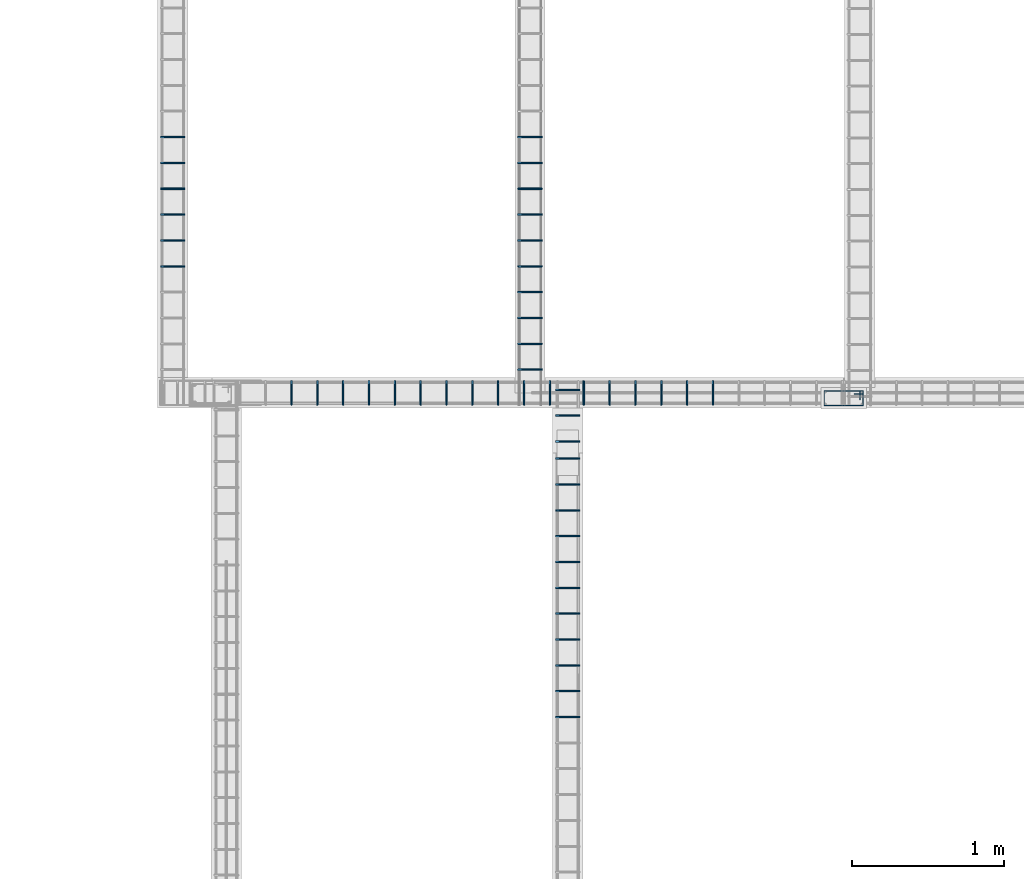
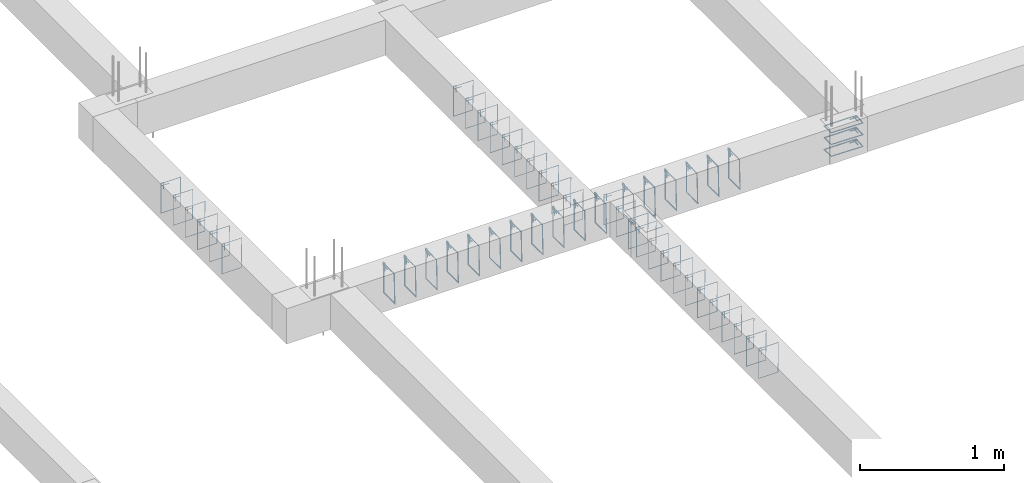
# One storey, part 26 of 150: 50 reinforcing bars.
"""IFC4 building model written with IfcOpenShell, lengths in centimetres."""

from ifc_helpers import new_model, entity, si_unit, derived_unit, frame, origin_with_axes, place, context, project, spatial, source, transform, mapped, element, save


model = new_model("IFC4")

# Units and contexts
model_context = context("Model", 3, precision=1e-05, world=origin_with_axes(), identifier="Body")
ifc_project = project(units=[si_unit("LENGTHUNIT", "METRE", prefix="CENTI"), si_unit("VOLUMEUNIT", "CUBIC_METRE"), si_unit("AREAUNIT", "SQUARE_METRE"), si_unit("POWERUNIT", "WATT"), si_unit("LUMINOUSFLUXUNIT", "LUMEN"), si_unit("ELECTRICCURRENTUNIT", "AMPERE"), si_unit("PRESSUREUNIT", "PASCAL", prefix="KILO"), si_unit("MASSUNIT", "GRAM", prefix="KILO"), si_unit("PLANEANGLEUNIT", "RADIAN"), derived_unit("VOLUMETRICFLOWRATEUNIT", [(si_unit("LENGTHUNIT", "METRE"), 3), (si_unit("TIMEUNIT", "SECOND"), -1)])], contexts=[model_context])

# Site, building, storey
site_placement = place(None, frame((-4000.0, 0.0, 0.0), z_axis=(0.0, 0.0, 1.0), x_axis=(1.0, 0.0, 0.0)))
site = spatial("IfcSite", under=ifc_project, at=site_placement, Name="PADRÃO")
building_placement = place(site_placement, frame((0.0, 0.0, -14.0)))
building = spatial("IfcBuilding", under=site, at=building_placement, Name="CRECHE PRÉ-ESCOLA TIPO 2")
placement = place(building_placement, origin_with_axes())
storey_placement = place(placement, frame((0.0, 0.0, 30.0), z_axis=(0.0, 0.0, 1.0), x_axis=(1.0, 0.0, 0.0)))
storey = spatial("IfcBuildingStorey", under=building, at=storey_placement, Name="VIGA BALDRAME", CompositionType="ELEMENT", Elevation=16.0)

# Reinforcing bars
shared_shape_1 = source(origin_with_axes(), model_context, "Body", "AdvancedSweptSolid", [
    entity("IfcSweptDiskSolid", entity("IfcCompositeCurve", [entity("IfcCompositeCurveSegment", "CONTINUOUS", True, entity("IfcPolyline", [entity("IfcCartesianPoint", [4.25, 21.75, 0.0]), entity("IfcCartesianPoint", [4.25, 27.75, 0.0])])), entity("IfcCompositeCurveSegment", "CONTINUOUS", True, entity("IfcPolyline", [entity("IfcCartesianPoint", [4.25, 27.75, 0.0]), entity("IfcCartesianPoint", [2.25, 27.75, 0.0])])), entity("IfcCompositeCurveSegment", "CONTINUOUS", True, entity("IfcPolyline", [entity("IfcCartesianPoint", [2.25, 27.75, 0.0]), entity("IfcCartesianPoint", [2.25, 2.25, 0.0])])), entity("IfcCompositeCurveSegment", "CONTINUOUS", True, entity("IfcPolyline", [entity("IfcCartesianPoint", [2.25, 2.25, 0.0]), entity("IfcCartesianPoint", [11.75, 2.25, 0.0])])), entity("IfcCompositeCurveSegment", "CONTINUOUS", True, entity("IfcPolyline", [entity("IfcCartesianPoint", [11.75, 2.25, 0.0]), entity("IfcCartesianPoint", [11.75, 27.75, -0.5])])), entity("IfcCompositeCurveSegment", "CONTINUOUS", True, entity("IfcPolyline", [entity("IfcCartesianPoint", [11.75, 27.75, -0.5]), entity("IfcCartesianPoint", [2.25, 27.75, -0.5])])), entity("IfcCompositeCurveSegment", "CONTINUOUS", True, entity("IfcPolyline", [entity("IfcCartesianPoint", [2.25, 27.75, -0.5]), entity("IfcCartesianPoint", [2.25, 25.75, -0.5])])), entity("IfcCompositeCurveSegment", "CONTINUOUS", True, entity("IfcPolyline", [entity("IfcCartesianPoint", [2.25, 25.75, -0.5]), entity("IfcCartesianPoint", [8.25, 25.75, -0.5])]))], False), 0.25),
])
for number, where, z_axis, x_axis, name in (
    (1, (670.0, 1034.51, -5.0), (0.0, 0.0, 1.0), (0.0, -1.0, 0.0), "P118 - Estribo"),
    (2, (670.0, 1034.51, -25.0), (0.0, 0.0, 1.0), (0.0, -1.0, 0.0), "P118 - Estribo"),
    (3, (670.0, 1034.51, -15.0), (0.0, 0.0, 1.0), (0.0, -1.0, 0.0), "P118 - Estribo"),
):
    element("IfcReinforcingBar", number, at=place(storey_placement, frame(where, z_axis=z_axis, x_axis=x_axis)), inside=storey, Name=name, BarLength=0.0, CrossSectionArea=1.9634954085e-05, NominalDiameter=0.5, PredefinedType="MAIN", context=model_context, shape_type="MappedRepresentation", body=[
        mapped(shared_shape_1, transform((0.0, 0.0, 0.0), scale=1.0)),
    ])
shared_shape_2 = source(origin_with_axes(), model_context, "Body", "AdvancedSweptSolid", [
    entity("IfcSweptDiskSolid", entity("IfcCompositeCurve", [entity("IfcCompositeCurveSegment", "CONTINUOUS", True, entity("IfcPolyline", [entity("IfcCartesianPoint", [2.0, -6.0, 0.0]), entity("IfcCartesianPoint", [2.0, 0.0, 0.0])])), entity("IfcCompositeCurveSegment", "CONTINUOUS", True, entity("IfcPolyline", [entity("IfcCartesianPoint", [2.0, 0.0, 0.0]), entity("IfcCartesianPoint", [0.0, 0.0, 0.0])])), entity("IfcCompositeCurveSegment", "CONTINUOUS", True, entity("IfcPolyline", [entity("IfcCartesianPoint", [0.0, 0.0, 0.0]), entity("IfcCartesianPoint", [0.0, -25.5, 0.0])])), entity("IfcCompositeCurveSegment", "CONTINUOUS", True, entity("IfcPolyline", [entity("IfcCartesianPoint", [0.0, -25.5, 0.0]), entity("IfcCartesianPoint", [15.5, -25.5, 0.0])])), entity("IfcCompositeCurveSegment", "CONTINUOUS", True, entity("IfcPolyline", [entity("IfcCartesianPoint", [15.5, -25.5, 0.0]), entity("IfcCartesianPoint", [15.5, 0.0, 0.5])])), entity("IfcCompositeCurveSegment", "CONTINUOUS", True, entity("IfcPolyline", [entity("IfcCartesianPoint", [15.5, 0.0, 0.5]), entity("IfcCartesianPoint", [0.0, 0.0, 0.5])])), entity("IfcCompositeCurveSegment", "CONTINUOUS", True, entity("IfcPolyline", [entity("IfcCartesianPoint", [0.0, 0.0, 0.5]), entity("IfcCartesianPoint", [0.0, -2.0, 0.5])])), entity("IfcCompositeCurveSegment", "CONTINUOUS", True, entity("IfcPolyline", [entity("IfcCartesianPoint", [0.0, -2.0, 0.5]), entity("IfcCartesianPoint", [6.0, -2.0, 0.5])]))], False), 0.25),
])
for number, where, z_axis, x_axis, name in (
    (4, (495.82, 818.01, -2.25), (0.0, -1.0, 0.0), (1.0, 0.0, 0.0), "V166 - Estribo"),
    (5, (495.82, 835.01, -2.25), (0.0, -1.0, 0.0), (1.0, 0.0, 0.0), "V166 - Estribo"),
    (6, (495.82, 852.01, -2.25), (0.0, -1.0, 0.0), (1.0, 0.0, 0.0), "V166 - Estribo"),
    (7, (495.82, 869.01, -2.25), (0.0, -1.0, 0.0), (1.0, 0.0, 0.0), "V166 - Estribo"),
    (8, (495.82, 886.01, -2.25), (0.0, -1.0, 0.0), (1.0, 0.0, 0.0), "V166 - Estribo"),
    (9, (495.82, 903.01, -2.25), (0.0, -1.0, 0.0), (1.0, 0.0, 0.0), "V166 - Estribo"),
    (10, (495.82, 920.01, -2.25), (0.0, -1.0, 0.0), (1.0, 0.0, 0.0), "V166 - Estribo"),
    (11, (495.82, 937.01, -2.25), (0.0, -1.0, 0.0), (1.0, 0.0, 0.0), "V166 - Estribo"),
    (12, (495.82, 954.01, -2.25), (0.0, -1.0, 0.0), (1.0, 0.0, 0.0), "V166 - Estribo"),
    (13, (495.82, 971.01, -2.25), (0.0, -1.0, 0.0), (1.0, 0.0, 0.0), "V166 - Estribo"),
    (14, (495.82, 988.01, -2.25), (0.0, -1.0, 0.0), (1.0, 0.0, 0.0), "V166 - Estribo"),
):
    element("IfcReinforcingBar", number, at=place(storey_placement, frame(where, z_axis=z_axis, x_axis=x_axis)), inside=storey, Name=name, BarLength=0.0, CrossSectionArea=1.9634954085e-05, NominalDiameter=0.5, PredefinedType="MAIN", context=model_context, shape_type="MappedRepresentation", body=[
        mapped(shared_shape_2, transform((0.0, 0.0, 0.0), scale=1.0)),
    ])
shared_shape_3 = source(origin_with_axes(), model_context, "Body", "AdvancedSweptSolid", [
    entity("IfcSweptDiskSolid", entity("IfcCompositeCurve", [entity("IfcCompositeCurveSegment", "CONTINUOUS", True, entity("IfcPolyline", [entity("IfcCartesianPoint", [2.0, -6.0, 0.0]), entity("IfcCartesianPoint", [2.0, 0.0, 0.0])])), entity("IfcCompositeCurveSegment", "CONTINUOUS", True, entity("IfcPolyline", [entity("IfcCartesianPoint", [2.0, 0.0, 0.0]), entity("IfcCartesianPoint", [0.0, 0.0, 0.0])])), entity("IfcCompositeCurveSegment", "CONTINUOUS", True, entity("IfcPolyline", [entity("IfcCartesianPoint", [0.0, 0.0, 0.0]), entity("IfcCartesianPoint", [0.0, -25.5, 0.0])])), entity("IfcCompositeCurveSegment", "CONTINUOUS", True, entity("IfcPolyline", [entity("IfcCartesianPoint", [0.0, -25.5, 0.0]), entity("IfcCartesianPoint", [15.5, -25.5, 0.0])])), entity("IfcCompositeCurveSegment", "CONTINUOUS", True, entity("IfcPolyline", [entity("IfcCartesianPoint", [15.5, -25.5, 0.0]), entity("IfcCartesianPoint", [15.5, 0.0, 0.5])])), entity("IfcCompositeCurveSegment", "CONTINUOUS", True, entity("IfcPolyline", [entity("IfcCartesianPoint", [15.5, 0.0, 0.5]), entity("IfcCartesianPoint", [0.0, 0.0, 0.5])])), entity("IfcCompositeCurveSegment", "CONTINUOUS", True, entity("IfcPolyline", [entity("IfcCartesianPoint", [0.0, 0.0, 0.5]), entity("IfcCartesianPoint", [0.0, -2.0, 0.5])])), entity("IfcCompositeCurveSegment", "CONTINUOUS", True, entity("IfcPolyline", [entity("IfcCartesianPoint", [0.0, -2.0, 0.5]), entity("IfcCartesianPoint", [6.0, -2.0, 0.5])]))], False), 0.25),
])
for number, where, z_axis, x_axis, name in (
    (15, (495.82, 999.255, -2.25), (0.0, -1.0, 0.0), (1.0, 0.0, 0.0), "V166 - Estribo"),
    (16, (495.82, 1016.255, -2.25), (0.0, -1.0, 0.0), (1.0, 0.0, 0.0), "V166 - Estribo"),
    (17, (495.82, 1033.255, -2.25), (0.0, -1.0, 0.0), (1.0, 0.0, 0.0), "V166 - Estribo"),
):
    element("IfcReinforcingBar", number, at=place(storey_placement, frame(where, z_axis=z_axis, x_axis=x_axis)), inside=storey, Name=name, BarLength=0.0, CrossSectionArea=1.9634954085e-05, NominalDiameter=0.5, PredefinedType="MAIN", context=model_context, shape_type="MappedRepresentation", body=[
        mapped(shared_shape_3, transform((0.0, 0.0, 0.0), scale=1.0)),
    ])
shared_shape_4 = source(origin_with_axes(), model_context, "Body", "AdvancedSweptSolid", [
    entity("IfcSweptDiskSolid", entity("IfcCompositeCurve", [entity("IfcCompositeCurveSegment", "CONTINUOUS", True, entity("IfcPolyline", [entity("IfcCartesianPoint", [2.0, -6.0, 0.0]), entity("IfcCartesianPoint", [2.0, 0.0, 0.0])])), entity("IfcCompositeCurveSegment", "CONTINUOUS", True, entity("IfcPolyline", [entity("IfcCartesianPoint", [2.0, 0.0, 0.0]), entity("IfcCartesianPoint", [0.0, 0.0, 0.0])])), entity("IfcCompositeCurveSegment", "CONTINUOUS", True, entity("IfcPolyline", [entity("IfcCartesianPoint", [0.0, 0.0, 0.0]), entity("IfcCartesianPoint", [0.0, -25.5, 0.0])])), entity("IfcCompositeCurveSegment", "CONTINUOUS", True, entity("IfcPolyline", [entity("IfcCartesianPoint", [0.0, -25.5, 0.0]), entity("IfcCartesianPoint", [15.5, -25.5, 0.0])])), entity("IfcCompositeCurveSegment", "CONTINUOUS", True, entity("IfcPolyline", [entity("IfcCartesianPoint", [15.5, -25.5, 0.0]), entity("IfcCartesianPoint", [15.5, 0.0, 0.5])])), entity("IfcCompositeCurveSegment", "CONTINUOUS", True, entity("IfcPolyline", [entity("IfcCartesianPoint", [15.5, 0.0, 0.5]), entity("IfcCartesianPoint", [0.0, 0.0, 0.5])])), entity("IfcCompositeCurveSegment", "CONTINUOUS", True, entity("IfcPolyline", [entity("IfcCartesianPoint", [0.0, 0.0, 0.5]), entity("IfcCartesianPoint", [0.0, -2.0, 0.5])])), entity("IfcCompositeCurveSegment", "CONTINUOUS", True, entity("IfcPolyline", [entity("IfcCartesianPoint", [0.0, -2.0, 0.5]), entity("IfcCartesianPoint", [6.0, -2.0, 0.5])]))], False), 0.25),
])
for number, where, z_axis, x_axis, name in (
    (18, (235.94, 1114.5, -2.25), (0.0, -1.0, 0.0), (1.0, 0.0, 0.0), "V161 - Estribo"),
    (19, (235.94, 1165.5, -2.25), (0.0, -1.0, 0.0), (1.0, 0.0, 0.0), "V161 - Estribo"),
    (20, (235.94, 1148.5, -2.25), (0.0, -1.0, 0.0), (1.0, 0.0, 0.0), "V161 - Estribo"),
    (21, (235.94, 1182.5, -2.25), (0.0, -1.0, 0.0), (1.0, 0.0, 0.0), "V161 - Estribo"),
    (22, (235.94, 1199.5, -2.25), (0.0, -1.0, 0.0), (1.0, 0.0, 0.0), "V161 - Estribo"),
    (23, (235.94, 1131.5, -2.25), (0.0, -1.0, 0.0), (1.0, 0.0, 0.0), "V161 - Estribo"),
):
    element("IfcReinforcingBar", number, at=place(storey_placement, frame(where, z_axis=z_axis, x_axis=x_axis)), inside=storey, Name=name, BarLength=0.0, CrossSectionArea=1.9634954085e-05, NominalDiameter=0.5, PredefinedType="MAIN", context=model_context, shape_type="MappedRepresentation", body=[
        mapped(shared_shape_4, transform((0.0, 0.0, 0.0), scale=1.0)),
    ])
shared_shape_5 = source(origin_with_axes(), model_context, "Body", "AdvancedSweptSolid", [
    entity("IfcSweptDiskSolid", entity("IfcCompositeCurve", [entity("IfcCompositeCurveSegment", "CONTINUOUS", True, entity("IfcPolyline", [entity("IfcCartesianPoint", [2.0, -6.0, 0.0]), entity("IfcCartesianPoint", [2.0, 0.0, 0.0])])), entity("IfcCompositeCurveSegment", "CONTINUOUS", True, entity("IfcPolyline", [entity("IfcCartesianPoint", [2.0, 0.0, 0.0]), entity("IfcCartesianPoint", [0.0, 0.0, 0.0])])), entity("IfcCompositeCurveSegment", "CONTINUOUS", True, entity("IfcPolyline", [entity("IfcCartesianPoint", [0.0, 0.0, 0.0]), entity("IfcCartesianPoint", [0.0, -25.5, 0.0])])), entity("IfcCompositeCurveSegment", "CONTINUOUS", True, entity("IfcPolyline", [entity("IfcCartesianPoint", [0.0, -25.5, 0.0]), entity("IfcCartesianPoint", [15.5, -25.5, 0.0])])), entity("IfcCompositeCurveSegment", "CONTINUOUS", True, entity("IfcPolyline", [entity("IfcCartesianPoint", [15.5, -25.5, 0.0]), entity("IfcCartesianPoint", [15.5, 0.0, 0.5])])), entity("IfcCompositeCurveSegment", "CONTINUOUS", True, entity("IfcPolyline", [entity("IfcCartesianPoint", [15.5, 0.0, 0.5]), entity("IfcCartesianPoint", [0.0, 0.0, 0.5])])), entity("IfcCompositeCurveSegment", "CONTINUOUS", True, entity("IfcPolyline", [entity("IfcCartesianPoint", [0.0, 0.0, 0.5]), entity("IfcCartesianPoint", [0.0, -2.0, 0.5])])), entity("IfcCompositeCurveSegment", "CONTINUOUS", True, entity("IfcPolyline", [entity("IfcCartesianPoint", [0.0, -2.0, 0.5]), entity("IfcCartesianPoint", [6.0, -2.0, 0.5])]))], False), 0.25),
])
for number, where, z_axis, x_axis, name in (
    (24, (470.94, 1199.5, -2.25), (0.0, -1.0, 0.0), (1.0, 0.0, 0.0), "V168 - Estribo"),
    (25, (470.94, 1182.5, -2.25), (0.0, -1.0, 0.0), (1.0, 0.0, 0.0), "V168 - Estribo"),
    (26, (470.94, 1165.5, -2.25), (0.0, -1.0, 0.0), (1.0, 0.0, 0.0), "V168 - Estribo"),
    (27, (470.94, 1148.5, -2.25), (0.0, -1.0, 0.0), (1.0, 0.0, 0.0), "V168 - Estribo"),
    (28, (470.94, 1131.5, -2.25), (0.0, -1.0, 0.0), (1.0, 0.0, 0.0), "V168 - Estribo"),
    (29, (470.94, 1114.5, -2.25), (0.0, -1.0, 0.0), (1.0, 0.0, 0.0), "V168 - Estribo"),
    (30, (470.94, 1097.5, -2.25), (0.0, -1.0, 0.0), (1.0, 0.0, 0.0), "V168 - Estribo"),
    (31, (470.94, 1080.5, -2.25), (0.0, -1.0, 0.0), (1.0, 0.0, 0.0), "V168 - Estribo"),
    (32, (470.94, 1063.5, -2.25), (0.0, -1.0, 0.0), (1.0, 0.0, 0.0), "V168 - Estribo"),
    (33, (470.94, 1046.5, -2.25), (0.0, -1.0, 0.0), (1.0, 0.0, 0.0), "V168 - Estribo"),
):
    element("IfcReinforcingBar", number, at=place(storey_placement, frame(where, z_axis=z_axis, x_axis=x_axis)), inside=storey, Name=name, BarLength=0.0, CrossSectionArea=1.9634954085e-05, NominalDiameter=0.5, PredefinedType="MAIN", context=model_context, shape_type="MappedRepresentation", body=[
        mapped(shared_shape_5, transform((0.0, 0.0, 0.0), scale=1.0)),
    ])
shared_shape_6 = source(origin_with_axes(), model_context, "Body", "AdvancedSweptSolid", [
    entity("IfcSweptDiskSolid", entity("IfcCompositeCurve", [entity("IfcCompositeCurveSegment", "CONTINUOUS", True, entity("IfcPolyline", [entity("IfcCartesianPoint", [2.0, -6.0, 0.0]), entity("IfcCartesianPoint", [2.0, 0.0, 0.0])])), entity("IfcCompositeCurveSegment", "CONTINUOUS", True, entity("IfcPolyline", [entity("IfcCartesianPoint", [2.0, 0.0, 0.0]), entity("IfcCartesianPoint", [0.0, 0.0, 0.0])])), entity("IfcCompositeCurveSegment", "CONTINUOUS", True, entity("IfcPolyline", [entity("IfcCartesianPoint", [0.0, 0.0, 0.0]), entity("IfcCartesianPoint", [0.0, -25.5, 0.0])])), entity("IfcCompositeCurveSegment", "CONTINUOUS", True, entity("IfcPolyline", [entity("IfcCartesianPoint", [0.0, -25.5, 0.0]), entity("IfcCartesianPoint", [15.5, -25.5, 0.0])])), entity("IfcCompositeCurveSegment", "CONTINUOUS", True, entity("IfcPolyline", [entity("IfcCartesianPoint", [15.5, -25.5, 0.0]), entity("IfcCartesianPoint", [15.5, 0.0, 0.5])])), entity("IfcCompositeCurveSegment", "CONTINUOUS", True, entity("IfcPolyline", [entity("IfcCartesianPoint", [15.5, 0.0, 0.5]), entity("IfcCartesianPoint", [0.0, 0.0, 0.5])])), entity("IfcCompositeCurveSegment", "CONTINUOUS", True, entity("IfcPolyline", [entity("IfcCartesianPoint", [0.0, 0.0, 0.5]), entity("IfcCartesianPoint", [0.0, -2.0, 0.5])])), entity("IfcCompositeCurveSegment", "CONTINUOUS", True, entity("IfcPolyline", [entity("IfcCartesianPoint", [0.0, -2.0, 0.5]), entity("IfcCartesianPoint", [6.0, -2.0, 0.5])]))], False), 0.25),
])
for number, where, z_axis, x_axis, name in (
    (34, (322.035, 1038.75, -2.25), (-1.0, 0.0, 0.0), (0.0, -1.0, 0.0), "V140 - Estribo"),
    (35, (339.035, 1038.75, -2.25), (-1.0, 0.0, 0.0), (0.0, -1.0, 0.0), "V140 - Estribo"),
    (36, (356.035, 1038.75, -2.25), (-1.0, 0.0, 0.0), (0.0, -1.0, 0.0), "V140 - Estribo"),
    (37, (373.035, 1038.75, -2.25), (-1.0, 0.0, 0.0), (0.0, -1.0, 0.0), "V140 - Estribo"),
    (38, (390.035, 1038.75, -2.25), (-1.0, 0.0, 0.0), (0.0, -1.0, 0.0), "V140 - Estribo"),
    (39, (407.035, 1038.75, -2.25), (-1.0, 0.0, 0.0), (0.0, -1.0, 0.0), "V140 - Estribo"),
    (40, (424.035, 1038.75, -2.25), (-1.0, 0.0, 0.0), (0.0, -1.0, 0.0), "V140 - Estribo"),
    (41, (441.035, 1038.75, -2.25), (-1.0, 0.0, 0.0), (0.0, -1.0, 0.0), "V140 - Estribo"),
    (42, (458.035, 1038.75, -2.25), (-1.0, 0.0, 0.0), (0.0, -1.0, 0.0), "V140 - Estribo"),
    (43, (475.035, 1038.75, -2.25), (-1.0, 0.0, 0.0), (0.0, -1.0, 0.0), "V140 - Estribo"),
    (44, (492.035, 1038.75, -2.25), (-1.0, 0.0, 0.0), (0.0, -1.0, 0.0), "V140 - Estribo"),
):
    element("IfcReinforcingBar", number, at=place(storey_placement, frame(where, z_axis=z_axis, x_axis=x_axis)), inside=storey, Name=name, BarLength=0.0, CrossSectionArea=1.9634954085e-05, NominalDiameter=0.5, PredefinedType="MAIN", context=model_context, shape_type="MappedRepresentation", body=[
        mapped(shared_shape_6, transform((0.0, 0.0, 0.0), scale=1.0)),
    ])
shared_shape_7 = source(origin_with_axes(), model_context, "Body", "AdvancedSweptSolid", [
    entity("IfcSweptDiskSolid", entity("IfcCompositeCurve", [entity("IfcCompositeCurveSegment", "CONTINUOUS", True, entity("IfcPolyline", [entity("IfcCartesianPoint", [2.0, -6.0, 0.0]), entity("IfcCartesianPoint", [2.0, 0.0, 0.0])])), entity("IfcCompositeCurveSegment", "CONTINUOUS", True, entity("IfcPolyline", [entity("IfcCartesianPoint", [2.0, 0.0, 0.0]), entity("IfcCartesianPoint", [0.0, 0.0, 0.0])])), entity("IfcCompositeCurveSegment", "CONTINUOUS", True, entity("IfcPolyline", [entity("IfcCartesianPoint", [0.0, 0.0, 0.0]), entity("IfcCartesianPoint", [0.0, -25.5, 0.0])])), entity("IfcCompositeCurveSegment", "CONTINUOUS", True, entity("IfcPolyline", [entity("IfcCartesianPoint", [0.0, -25.5, 0.0]), entity("IfcCartesianPoint", [15.5, -25.5, 0.0])])), entity("IfcCompositeCurveSegment", "CONTINUOUS", True, entity("IfcPolyline", [entity("IfcCartesianPoint", [15.5, -25.5, 0.0]), entity("IfcCartesianPoint", [15.5, 0.0, 0.5])])), entity("IfcCompositeCurveSegment", "CONTINUOUS", True, entity("IfcPolyline", [entity("IfcCartesianPoint", [15.5, 0.0, 0.5]), entity("IfcCartesianPoint", [0.0, 0.0, 0.5])])), entity("IfcCompositeCurveSegment", "CONTINUOUS", True, entity("IfcPolyline", [entity("IfcCartesianPoint", [0.0, 0.0, 0.5]), entity("IfcCartesianPoint", [0.0, -2.0, 0.5])])), entity("IfcCompositeCurveSegment", "CONTINUOUS", True, entity("IfcPolyline", [entity("IfcCartesianPoint", [0.0, -2.0, 0.5]), entity("IfcCartesianPoint", [6.0, -2.0, 0.5])]))], False), 0.25),
])
for number, where, z_axis, x_axis, name in (
    (45, (531.285, 1038.75, -2.25), (-1.0, 0.0, 0.0), (0.0, -1.0, 0.0), "V140 - Estribo"),
    (46, (514.285, 1038.75, -2.25), (-1.0, 0.0, 0.0), (0.0, -1.0, 0.0), "V140 - Estribo"),
    (47, (548.285, 1038.75, -2.25), (-1.0, 0.0, 0.0), (0.0, -1.0, 0.0), "V140 - Estribo"),
    (48, (565.285, 1038.75, -2.25), (-1.0, 0.0, 0.0), (0.0, -1.0, 0.0), "V140 - Estribo"),
    (49, (582.285, 1038.75, -2.25), (-1.0, 0.0, 0.0), (0.0, -1.0, 0.0), "V140 - Estribo"),
    (50, (599.285, 1038.75, -2.25), (-1.0, 0.0, 0.0), (0.0, -1.0, 0.0), "V140 - Estribo"),
):
    element("IfcReinforcingBar", number, at=place(storey_placement, frame(where, z_axis=z_axis, x_axis=x_axis)), inside=storey, Name=name, BarLength=0.0, CrossSectionArea=1.9634954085e-05, NominalDiameter=0.5, PredefinedType="MAIN", context=model_context, shape_type="MappedRepresentation", body=[
        mapped(shared_shape_7, transform((0.0, 0.0, 0.0), scale=1.0)),
    ])

save(model, "model.ifc")
